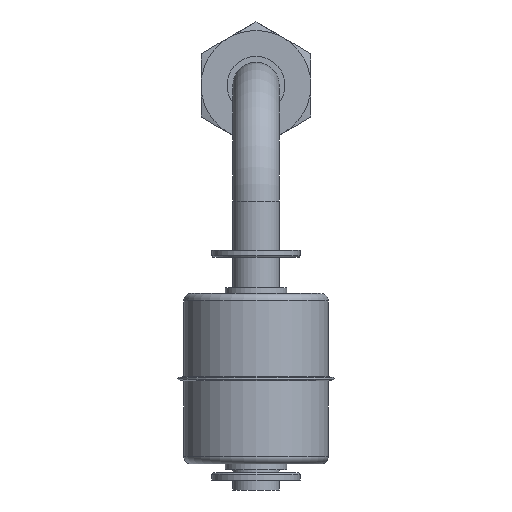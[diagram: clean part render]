
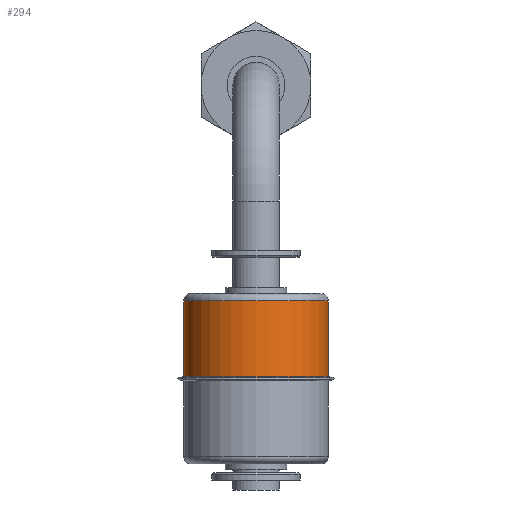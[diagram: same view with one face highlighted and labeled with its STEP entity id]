
A CAD part, front view. The second image highlights one B-rep face of the part: STEP entity #294.
In plain terms, the highlighted cylindrical face has radius 12.5 mm (diameter 25 mm), a full revolution.
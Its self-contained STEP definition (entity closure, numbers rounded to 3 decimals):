
#202=CYLINDRICAL_SURFACE('',#997,12.5);
#294=ADVANCED_FACE('',(#396,#397),#202,.T.);
#396=FACE_BOUND('',#509,.T.);
#397=FACE_BOUND('',#510,.T.);
#509=EDGE_LOOP('',(#669));
#510=EDGE_LOOP('',(#670));
#669=ORIENTED_EDGE('',*,*,#841,.T.);
#670=ORIENTED_EDGE('',*,*,#842,.F.);
#761=VERTEX_POINT('',#1477);
#762=VERTEX_POINT('',#1480);
#841=EDGE_CURVE('',#761,#761,#897,.T.);
#842=EDGE_CURVE('',#762,#762,#898,.T.);
#897=CIRCLE('',#994,12.5);
#898=CIRCLE('',#996,12.5);
#994=AXIS2_PLACEMENT_3D('',#1476,#1203,#1204);
#996=AXIS2_PLACEMENT_3D('',#1479,#1207,#1208);
#997=AXIS2_PLACEMENT_3D('',#1481,#1209,#1210);
#1203=DIRECTION('',(0.,0.,1.));
#1204=DIRECTION('',(-1.,0.,0.));
#1207=DIRECTION('',(0.,0.,1.));
#1208=DIRECTION('',(-1.,0.,0.));
#1209=DIRECTION('',(0.,0.,1.));
#1210=DIRECTION('',(-1.,0.,0.));
#1476=CARTESIAN_POINT('',(0.,0.,19.6));
#1477=CARTESIAN_POINT('',(-12.5,0.,19.6));
#1479=CARTESIAN_POINT('',(0.,0.,32.7));
#1480=CARTESIAN_POINT('',(-12.5,0.,32.7));
#1481=CARTESIAN_POINT('',(0.,0.,112.298));
